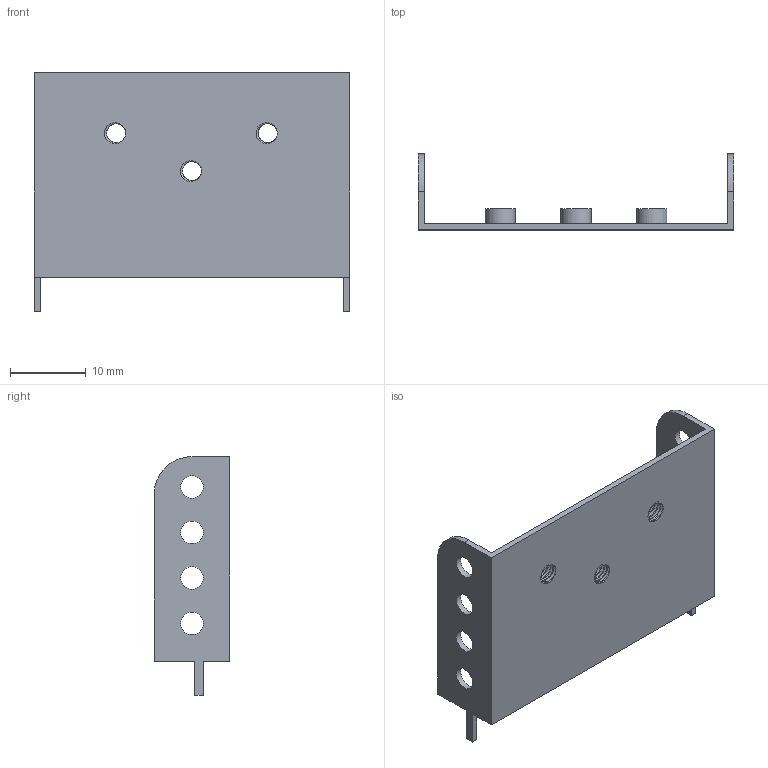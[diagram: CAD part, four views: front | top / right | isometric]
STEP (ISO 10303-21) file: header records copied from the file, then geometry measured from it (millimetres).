
FILE_DESCRIPTION(/* description */ ('','CAx-IF Rec.Pracs.---Representation and Presentation of Product Manufacturing Information (PMI)---4.0---2014-10-13'),/* implementation_level */ '2;1');
FILE_NAME(/* name */ 'TypeB-2-0.8.step',/* time_stamp */ '2025-01-27T02:26:42+09:00',/* author */ (''),/* organization */ (''),/* preprocessor_version */ 'ST-DEVELOPER v20',/* originating_system */ 'Autodesk Translation Framework v13.20.0.188',/* authorisation */ '');
FILE_SCHEMA (('AP242_MANAGED_MODEL_BASED_3D_ENGINEERING_MIM_LF { 1 0 10303 442 1 1 4 }'));
Length unit declared in the file: millimetre
Products named in the file (1): (未保存)
Bounding box: 41.6 x 10 x 31.5 mm (x, y, z)
Volume: 1275.5 mm3; surface area: 3496.5 mm2
Topology: 1 solids, 1 shells, 85 faces, 240 edges, 160 vertices
Faces by surface type: cylinder 52, plane 21, bspline 12
Full cylindrical faces by diameter (mm): 2.529 x12, 3 x8, 3.086 x15, 4 x3
Entity records: 6223 total; most frequent: CARTESIAN_POINT 4152, ORIENTED_EDGE 480, DIRECTION 318, EDGE_CURVE 240, VERTEX_POINT 160, AXIS2_PLACEMENT_3D 112, EDGE_LOOP 110, B_SPLINE_CURVE_WITH_KNOTS 108
